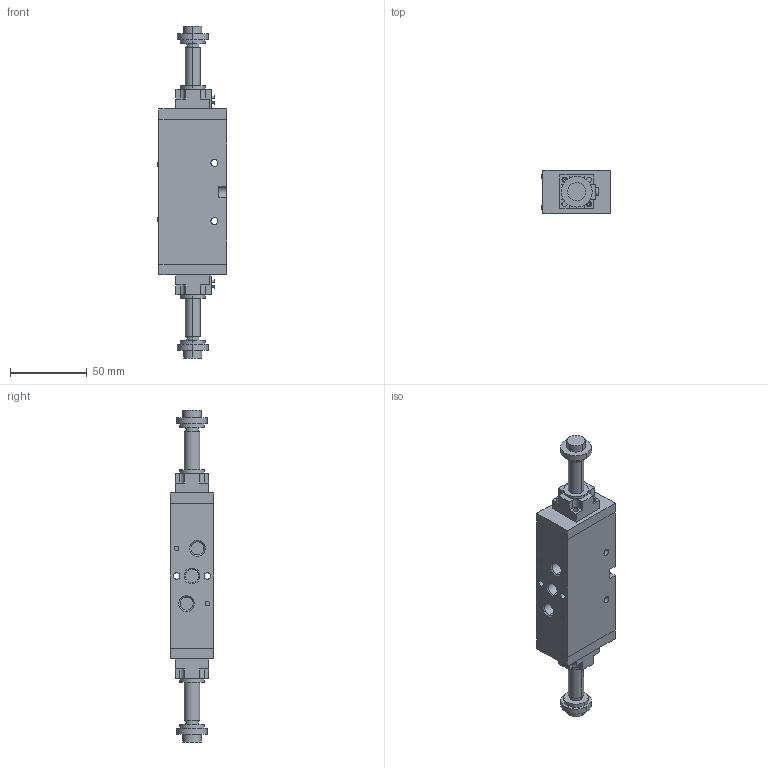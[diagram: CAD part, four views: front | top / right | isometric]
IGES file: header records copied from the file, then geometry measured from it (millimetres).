
Global section: file name: No Iges File Name specified; native system: AutoDesk Inventor R11.0; preprocessor: AutoDesk Inventor Iges Exporter R11.0; author: No Author specified; organization: No Organization specified; date: 20061201.120915; units: millimetre
Bounding box: 45 x 28 x 216 mm (x, y, z)
Volume: 147467.9 mm3; surface area: 30285 mm2
Topology: 3 solids, 3 shells, 225 faces, 546 edges, 350 vertices
Faces by surface type: plane 95, bspline 56, revolution 42, cylinder 32
